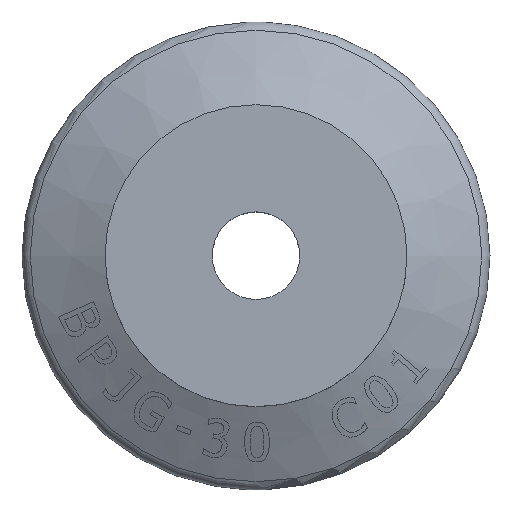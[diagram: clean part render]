
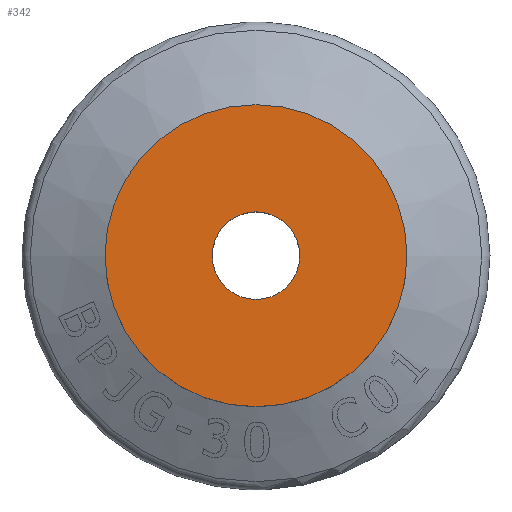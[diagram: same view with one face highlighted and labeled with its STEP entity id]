
A CAD part, top view. The second image highlights one B-rep face of the part: STEP entity #342.
In plain terms, the highlighted planar face has unit normal (0, 0, 1).
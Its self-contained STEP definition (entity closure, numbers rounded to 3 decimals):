
#342=ADVANCED_FACE('',(#1273,#1274),#1275,.T.);
#1273=FACE_BOUND('',#2606,.T.);
#1274=FACE_OUTER_BOUND('',#2607,.T.);
#1275=PLANE('',#2608);
#2606=EDGE_LOOP('',(#5620));
#2607=EDGE_LOOP('',(#5621));
#2608=AXIS2_PLACEMENT_3D('',#5622,#5623,#5624);
#5620=ORIENTED_EDGE('',*,*,#10264,.T.);
#5621=ORIENTED_EDGE('',*,*,#9611,.F.);
#5622=CARTESIAN_POINT('',(10.0,0.,18.0));
#5623=DIRECTION('',(0.0,0.,1.0));
#5624=DIRECTION('',(0.0,-1.0,0.));
#9611=EDGE_CURVE('',#11970,#11970,#11971,.T.);
#10264=EDGE_CURVE('',#13099,#13099,#13100,.T.);
#11970=VERTEX_POINT('',#16119);
#11971=CIRCLE('',#16120,10.0);
#13099=VERTEX_POINT('',#18609);
#13100=CIRCLE('',#18610,2.9);
#16119=CARTESIAN_POINT('',(0.0,10.0,18.0));
#16120=AXIS2_PLACEMENT_3D('',#21450,#21451,#21452);
#18609=CARTESIAN_POINT('',(0.,2.9,18.0));
#18610=AXIS2_PLACEMENT_3D('',#21758,#21759,#21760);
#21450=CARTESIAN_POINT('',(0.0,0.,18.0));
#21451=DIRECTION('',(0.0,0.,-1.0));
#21452=DIRECTION('',(0.0,1.0,0.));
#21758=CARTESIAN_POINT('',(0.,0.,18.0));
#21759=DIRECTION('',(0.0,0.,-1.0));
#21760=DIRECTION('',(0.0,1.0,0.));
